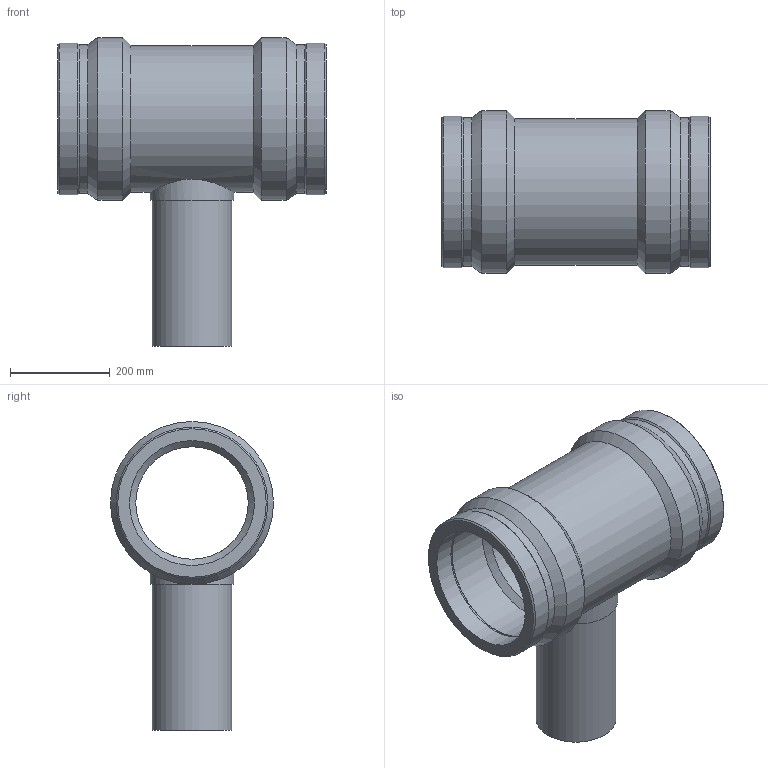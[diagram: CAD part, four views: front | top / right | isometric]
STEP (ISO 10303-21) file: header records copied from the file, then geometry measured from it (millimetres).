
FILE_DESCRIPTION(/* description */ ('PLASSON REDUCING TEE 250x160x250'),/* implementation_level */ '2;1');
FILE_NAME(/* name */ 'C:\Dropbox\KIMPROJECTS-Inventor 2019\99-16-3568-Processing\ElectroFusion Fittings\491404\491404250160.ipt.stp',/* time_stamp */ '2020-06-21T10:42:45+03:00',/* author */ ('KIM'),/* organization */ (''),/* preprocessor_version */ 'ST-DEVELOPER v17.2',/* originating_system */ 'Autodesk Inventor 2019',/* authorisation */ '');
FILE_SCHEMA (('AUTOMOTIVE_DESIGN { 1 0 10303 214 3 1 1 }'));
Length unit declared in the file: millimetre
Products named in the file (1): 491404250160
Bounding box: 538 x 326 x 618 mm (x, y, z)
Volume: 16981788.9 mm3; surface area: 1267852.1 mm2
Topology: 1 solids, 1 shells, 45 faces, 112 edges, 79 vertices
Faces by surface type: cylinder 19, cone 14, plane 12
Full cylindrical faces by diameter (mm): 4 x2, 10 x2, 128 x1, 160 x1, 168 x1, 225 x1, 250 x4, 293.4 x1, 297.116 x2, 303.18 x2, 326 x2
Entity records: 1634 total; most frequent: CARTESIAN_POINT 437, DIRECTION 267, ORIENTED_EDGE 224, AXIS2_PLACEMENT_3D 117, EDGE_CURVE 112, VERTEX_POINT 79, CIRCLE 71, EDGE_LOOP 59
